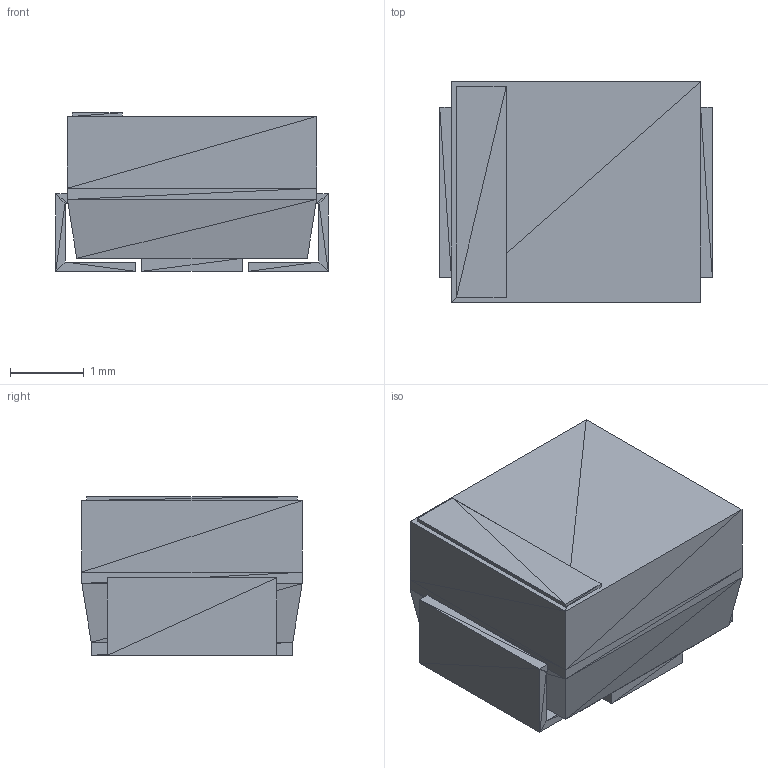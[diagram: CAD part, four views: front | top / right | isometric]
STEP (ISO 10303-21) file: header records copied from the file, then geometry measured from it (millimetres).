
FILE_DESCRIPTION(('STEP AP214'),'1');
FILE_NAME('3528-21','2020-10-25T05:21:17',(''),(''),'','','');
FILE_SCHEMA(('AUTOMOTIVE_DESIGN'));
Length unit declared in the file: millimetre
Products named in the file (1): product
Bounding box: 3.71 x 3 x 2.16 mm (x, y, z)
Surface area: 70 mm2 (no closed solid volume)
Topology: 0 solids, 108 shells, 108 faces, 324 edges, 324 vertices
Faces by surface type: plane 108
Entity records: 3623 total; most frequent: CARTESIAN_POINT 757, DIRECTION 542, ORIENTED_EDGE 324, EDGE_CURVE 324, VERTEX_POINT 324, LINE 324, VECTOR 324, AXIS2_PLACEMENT_3D 109
